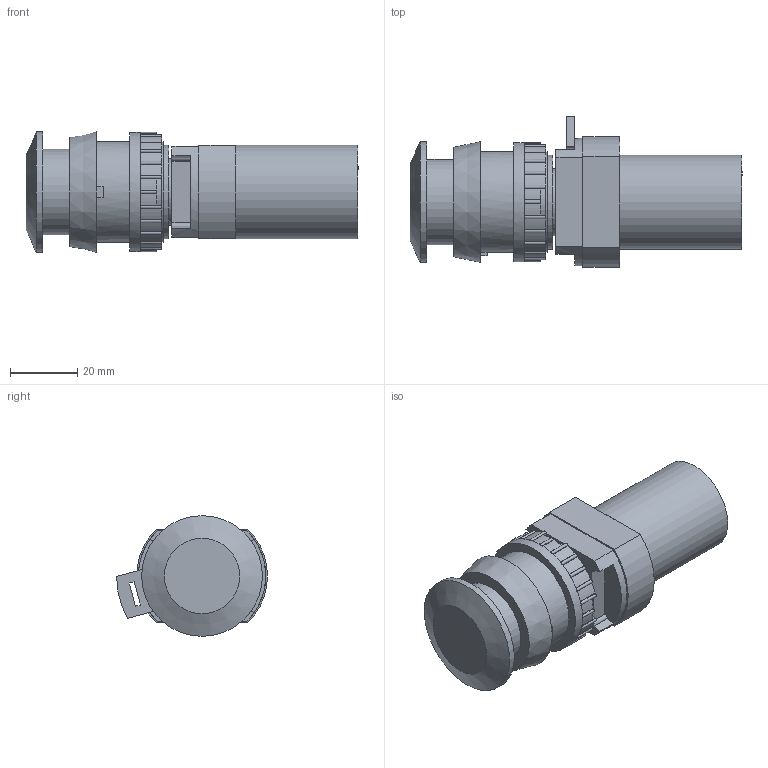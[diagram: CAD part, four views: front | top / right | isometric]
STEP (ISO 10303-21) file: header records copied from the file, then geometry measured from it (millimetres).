
FILE_DESCRIPTION (( 'STEP AP214' ), '1' );
FILE_NAME ('18-T-30-012---T-30-510_Airtec.step', '2018-11-15T12:46:52', ( '' ), ( '' ), 'SwSTEP 2.0', 'SolidWorks 2010', '' );
FILE_SCHEMA (( 'AUTOMOTIVE_DESIGN' ));
Length unit declared in the file: millimetre
Products named in the file (3): T-30-510-Airtec; 18-T-30-012-Airtec; 18-T-30-012---T-30-510_Airtec
Assembly tree (2 placements, depth 2):
  18-T-30-012---T-30-510_Airtec
    18-T-30-012-Airtec
    T-30-510-Airtec
Bounding box: 99 x 45 x 36 mm (x, y, z)
Volume: 70033.9 mm3; surface area: 17814.3 mm2
Topology: 2 solids, 2 shells, 354 faces, 963 edges, 629 vertices
Faces by surface type: plane 213, cylinder 133, cone 8
Full cylindrical faces by diameter (mm): 3.9 x1, 4.134 x5, 16 x1, 20 x1, 25.4 x1, 28 x2, 30 x2, 35.5 x1, 36 x1
Entity records: 11096 total; most frequent: DIRECTION 1984, CARTESIAN_POINT 1902, ORIENTED_EDGE 1854, EDGE_CURVE 927, AXIS2_PLACEMENT_3D 698, VERTEX_POINT 616, LINE 588, VECTOR 588
